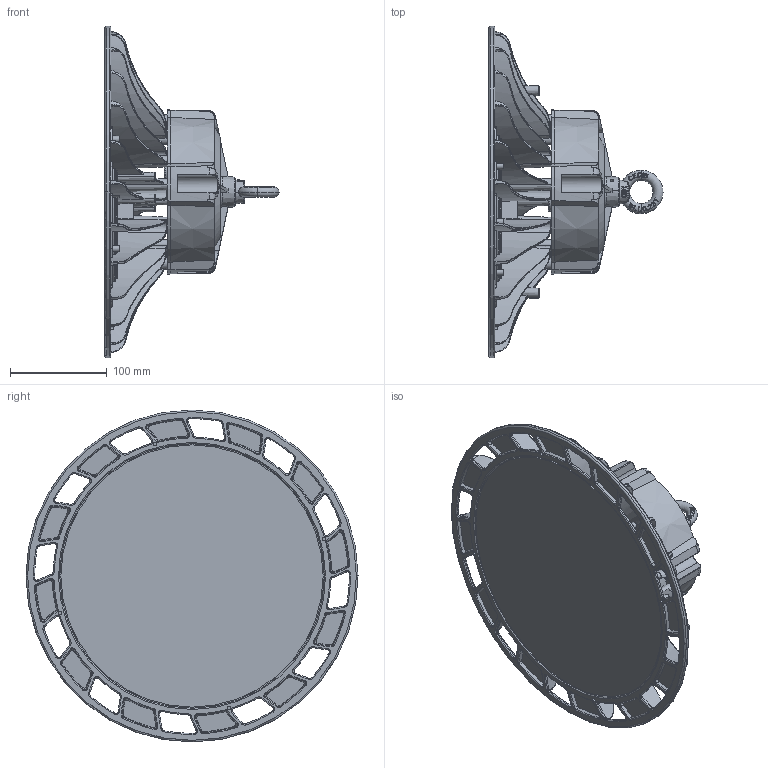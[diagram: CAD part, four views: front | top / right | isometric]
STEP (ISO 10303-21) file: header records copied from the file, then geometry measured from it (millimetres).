
FILE_DESCRIPTION(('Creo Elements/Direct Modeling STEP Export'),'2;1');
FILE_NAME('H040E-200W.stp','2020-04-07T 7:22:45',(''),(''),'PTC Creo Elements/Direct Modeling STEP processor for AP214 (Solid Model)','PTC Creo Elements/Direct Modeling 19.0E 27-Jun-2016 (C) Parametric Technology GmbH','');
FILE_SCHEMA(('AUTOMOTIVE_DESIGN { 1 0 10303 214 1 1 1 1 }'));
Products named in the file (3): H040E-200; Screw; H040E-200W
Assembly tree (2 placements, depth 2):
  H040E-200W
    Screw
    H040E-200
Bounding box: 179.88 x 343.12 x 343.12 mm (x, y, z)
Volume: 1731356.6 mm3; surface area: 588191.9 mm2
Topology: 2 solids, 6 shells, 2337 faces, 6343 edges, 4094 vertices
Faces by surface type: plane 742, cone 460, cylinder 394, bspline 389, torus 350, sphere 2
Entity records: 111308 total; most frequent: CARTESIAN_POINT 59604, ORIENTED_EDGE 12682, DIRECTION 8536, EDGE_CURVE 6341, VERTEX_POINT 4094, AXIS2_PLACEMENT_3D 3825, B_SPLINE_CURVE_WITH_KNOTS 2953, EDGE_LOOP 2473
